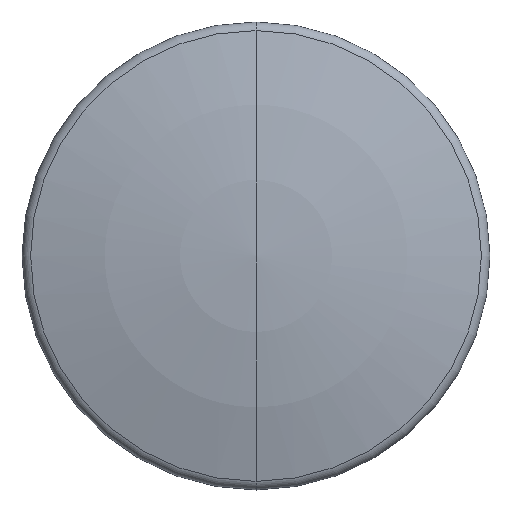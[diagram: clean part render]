
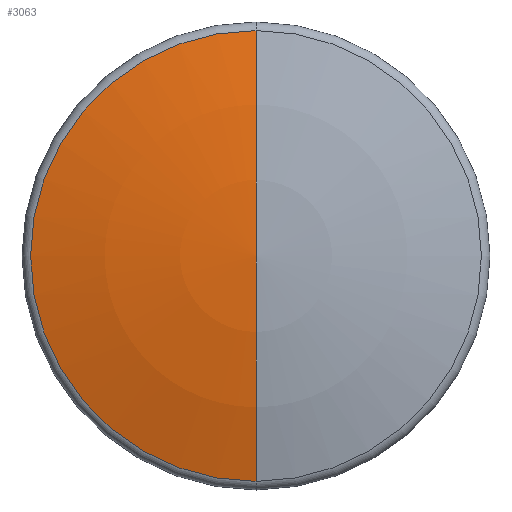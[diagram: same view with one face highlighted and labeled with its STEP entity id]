
A CAD part, top view. The second image highlights one B-rep face of the part: STEP entity #3063.
In plain terms, the highlighted toroidal (fillet/blend) face has major radius 0.664 mm and minor radius 75 mm.
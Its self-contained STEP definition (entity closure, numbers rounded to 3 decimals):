
#257 = DIRECTION ( 'NONE',  ( -1., 0., 0. ) ) ;
#333 = CARTESIAN_POINT ( 'NONE',  ( 0., 19.266, 21.806 ) ) ;
#441 = AXIS2_PLACEMENT_3D ( 'NONE', #1707, #895, #1747 ) ;
#595 = AXIS2_PLACEMENT_3D ( 'NONE', #2297, #257, #2637 ) ;
#804 = CARTESIAN_POINT ( 'NONE',  ( 0., 0., -50.497 ) ) ;
#895 = DIRECTION ( 'NONE',  ( 0., 0., 1. ) ) ;
#1001 = CARTESIAN_POINT ( 'NONE',  ( 0., 0.664, -50.497 ) ) ;
#1113 = DIRECTION ( 'NONE',  ( 1., 0., 0. ) ) ;
#1420 = EDGE_CURVE ( 'NONE', #2120, #3382, #1550, .T. ) ;
#1491 = DIRECTION ( 'NONE',  ( 0., 1., 0. ) ) ;
#1550 = CIRCLE ( 'NONE', #3259, 75. ) ;
#1559 = EDGE_LOOP ( 'NONE', ( #3351, #3325, #2162 ) ) ;
#1589 = EDGE_CURVE ( 'NONE', #4216, #3382, #2934, .T. ) ;
#1707 = CARTESIAN_POINT ( 'NONE',  ( 0., 0., 21.806 ) ) ;
#1747 = DIRECTION ( 'NONE',  ( 0., 1., 0. ) ) ;
#1903 = DIRECTION ( 'NONE',  ( 0., 1., 0. ) ) ;
#2120 = VERTEX_POINT ( 'NONE', #4385 ) ;
#2131 = CIRCLE ( 'NONE', #595, 75. ) ;
#2162 = ORIENTED_EDGE ( 'NONE', *, *, #1589, .T. ) ;
#2272 = TOROIDAL_SURFACE ( 'NONE', #3070, -0.664, 75. ) ;
#2297 = CARTESIAN_POINT ( 'NONE',  ( 0., -0.664, -50.497 ) ) ;
#2637 = DIRECTION ( 'NONE',  ( 0., 0., 1. ) ) ;
#2638 = EDGE_CURVE ( 'NONE', #2120, #4216, #2131, .T. ) ;
#2934 = CIRCLE ( 'NONE', #441, 19.266 ) ;
#3063 = ADVANCED_FACE ( 'NONE', ( #3485 ), #2272, .T. ) ;
#3070 = AXIS2_PLACEMENT_3D ( 'NONE', #804, #3519, #1491 ) ;
#3259 = AXIS2_PLACEMENT_3D ( 'NONE', #1001, #1113, #1903 ) ;
#3325 = ORIENTED_EDGE ( 'NONE', *, *, #2638, .T. ) ;
#3351 = ORIENTED_EDGE ( 'NONE', *, *, #1420, .F. ) ;
#3366 = CARTESIAN_POINT ( 'NONE',  ( 0., -19.266, 21.806 ) ) ;
#3382 = VERTEX_POINT ( 'NONE', #3366 ) ;
#3485 = FACE_OUTER_BOUND ( 'NONE', #1559, .T. ) ;
#3519 = DIRECTION ( 'NONE',  ( 0., 0., -1. ) ) ;
#4216 = VERTEX_POINT ( 'NONE', #333 ) ;
#4385 = CARTESIAN_POINT ( 'NONE',  ( 0., 0., 24.5 ) ) ;
